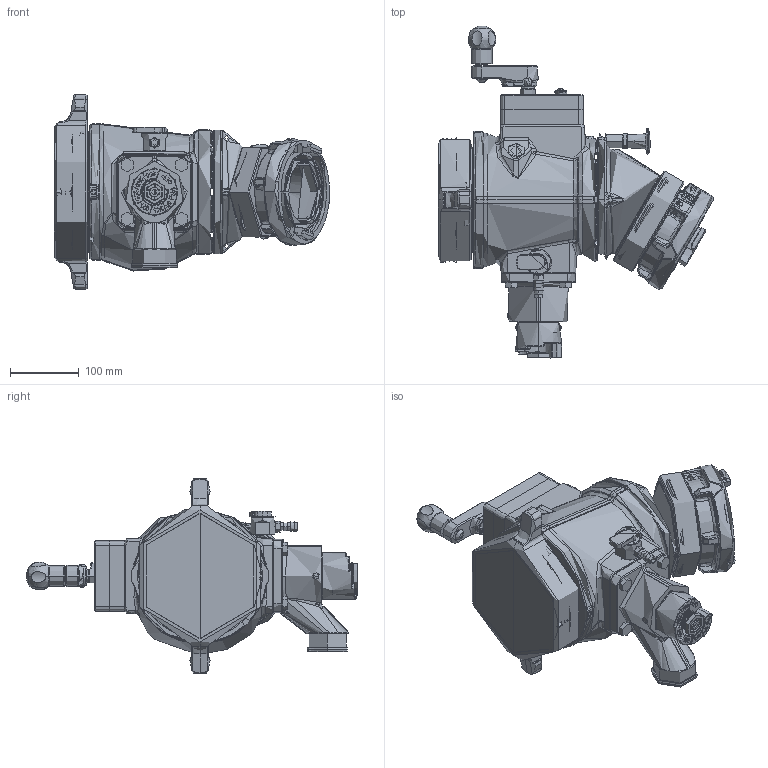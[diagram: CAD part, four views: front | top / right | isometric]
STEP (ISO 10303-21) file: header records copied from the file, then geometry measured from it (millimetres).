
FILE_DESCRIPTION (( 'STEP AP203' ), '1' );
FILE_NAME ('AX3SP-NX-PS1.STEP', '2014-10-30T16:00:01', ( '' ), ( '' ), 'SwSTEP 2.0', 'SolidWorks 2014', '' );
FILE_SCHEMA (( 'CONFIG_CONTROL_DESIGN' ));
Products named in the file (1): AX3SP-NX-PS1
Bounding box: 398.92 x 481.44 x 283.46 mm (x, y, z)
Topology: 0 solids, 91 shells, 2138 faces, 6739 edges, 4512 vertices
Faces by surface type: bspline 766, plane 555, cylinder 486, cone 331
Entity records: 178633 total; most frequent: CARTESIAN_POINT 128139, ORIENTED_EDGE 11383, DIRECTION 8033, EDGE_CURVE 6670, VERTEX_POINT 4512, AXIS2_PLACEMENT_3D 2989, B_SPLINE_CURVE_WITH_KNOTS 2755, EDGE_LOOP 2316
